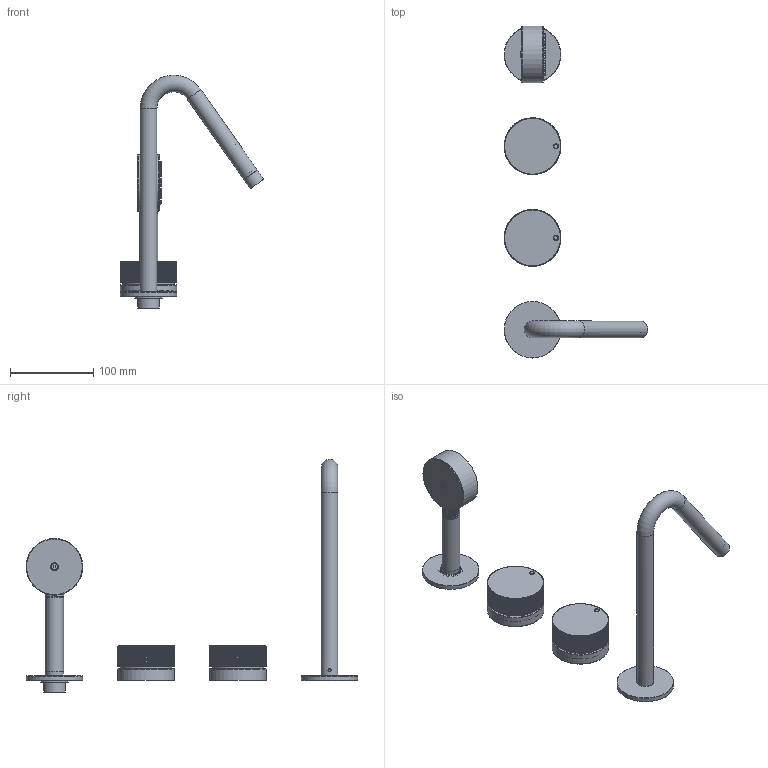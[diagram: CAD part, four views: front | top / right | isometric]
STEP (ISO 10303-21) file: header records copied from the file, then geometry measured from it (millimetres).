
FILE_DESCRIPTION(/* description */ ('Unknown'),/* implementation_level */ '2;1');
FILE_NAME(/* name */ 'RE015',/* time_stamp */ '2023-07-11T11:15:12+02:00',/* author */ ('Unknown'),/* organization */ ('Unknown'),/* preprocessor_version */ 'ST-DEVELOPER v18.102',/* originating_system */ 'Solid Edge',/* authorisation */ 'Unknown');
FILE_SCHEMA (('AUTOMOTIVE_DESIGN {1 0 10303 214 3 1 1}'));
Length unit declared in the file: millimetre
Products named in the file (21): RE015; RE004-002_oa_0; RE004-05; RE006-03; RE004-002_oa_1; RE015-004_oa_2; RN015-04; RE013-03; GRP-4x3; 01.5175.000_oa_3; 01.5175.000_1; RN015-001_oa_4; RN015-01; RN015-02; RE015-002_oa_5; C063172_22300FE; C039115_22300VC; A064042_12923ZZ; C020054_166B2ZZ; C092122_00200ZZ; C101031_22300VC
Assembly tree (22 placements, depth 4):
  RE015
    RE004-002_oa_0
      RE004-05
      RE006-03
    RE004-002_oa_1
      RE004-05
      RE006-03
    RE015-004_oa_2
      RN015-04
      RE013-03
      GRP-4x3
      01.5175.000_oa_3
        01.5175.000_1
    RN015-001_oa_4
      RN015-01
      RN015-02
    RE015-002_oa_5
      C063172_22300FE
      C039115_22300VC
      A064042_12923ZZ
      C020054_166B2ZZ
      C092122_00200ZZ
      C101031_22300VC
Bounding box: 172.22 x 398 x 279.9 mm (x, y, z)
Volume: 214835.2 mm3; surface area: 188279.3 mm2
Topology: 16 solids, 16 shells, 2588 faces, 5962 edges, 3496 vertices
Faces by surface type: plane 978, cone 876, cylinder 552, torus 112, bspline 66, sphere 4
Full cylindrical faces by diameter (mm): 3.242 x3, 3.3 x12, 4 x62, 4.5 x1, 5 x4, 6 x2, 10 x1, 10.1 x1, 12 x2, 12.196 x1, 12.5 x1, 13.464 x1, 13.5 x1, 14 x1, 14.5 x1, 14.577 x1, 15 x4, 15.033 x1, 15.218 x1, 15.229 x1, 15.417 x2, 16 x2, 16.2 x2, 16.3 x1, 16.5 x3, 16.75 x1, 16.917 x1, 17 x1, 18 x2, 18.2 x8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
Entity records: 60677 total; most frequent: CARTESIAN_POINT 19765, DIRECTION 6647, ORIENTED_EDGE 6242, EDGE_CURVE 3121, AXIS2_PLACEMENT_3D 2904, FACE_BOUND 2212, EDGE_LOOP 2210, VERTEX_POINT 2011
